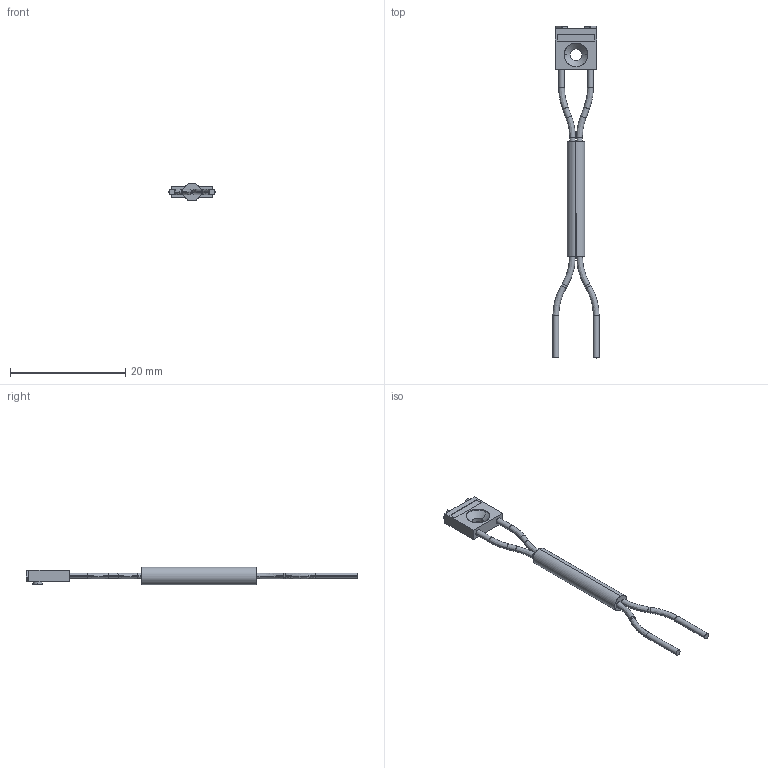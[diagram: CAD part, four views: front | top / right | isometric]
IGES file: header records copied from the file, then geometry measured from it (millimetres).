
Start section: SolidWorks IGES FILE using analytic representation for surfaces
Global section: file name: \\intra-srv04\開発データ\CAD_Data\CAD委員会\3D電子ｶﾀﾛｸﾞ\製品カタログ（新）\0_IGES\FD-WL48.IGS,41HSolidWorks 2004; native system: by SolidWorks Corporation; preprocessor: Version 5.3; author: yk0651; date: 051026.171838; units: millimetre
Bounding box: 8 x 57.5 x 3 mm (x, y, z)
Surface area: 565.4 mm2 (no closed solid volume)
Topology: 0 solids, 0 shells, 86 faces, 660 edges, 660 vertices
Faces by surface type: bspline 56, revolution 30
